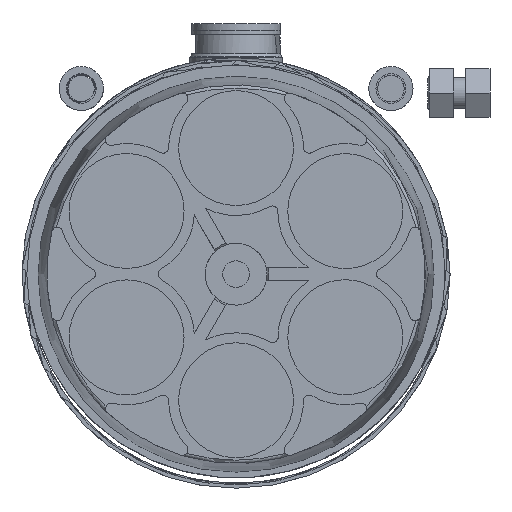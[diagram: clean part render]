
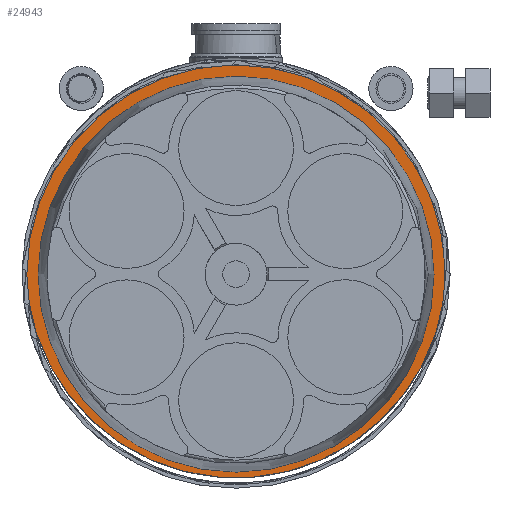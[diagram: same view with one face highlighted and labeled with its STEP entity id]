
A CAD part, left-side view. The second image highlights one B-rep face of the part: STEP entity #24943.
In plain terms, the highlighted planar face has unit normal (-1, 0, 0).
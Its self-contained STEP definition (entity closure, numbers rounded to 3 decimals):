
#23902 = CYLINDRICAL_SURFACE('',#23903,95.);
#23903 = AXIS2_PLACEMENT_3D('',#23904,#23905,#23906);
#23904 = CARTESIAN_POINT('',(-15228.601,235.812,
    -16.));
#23905 = DIRECTION('',(1.,0.,0.));
#23906 = DIRECTION('',(0.,1.,0.));
#24443 = VERTEX_POINT('',#24444);
#24444 = CARTESIAN_POINT('',(-15543.601,329.811,
    -29.753));
#24464 = EDGE_CURVE('',#24443,#24465,#24467,.T.);
#24465 = VERTEX_POINT('',#24466);
#24466 = CARTESIAN_POINT('',(-15543.601,141.813,
    -29.753));
#24467 = SURFACE_CURVE('',#24468,(#24473,#24480),.PCURVE_S1.);
#24468 = CIRCLE('',#24469,95.);
#24469 = AXIS2_PLACEMENT_3D('',#24470,#24471,#24472);
#24470 = CARTESIAN_POINT('',(-15543.601,235.812,
    -16.));
#24471 = DIRECTION('',(-1.,0.,0.));
#24472 = DIRECTION('',(0.,1.,0.));
#24473 = PCURVE('',#23902,#24474);
#24474 = DEFINITIONAL_REPRESENTATION('',(#24475),#24479);
#24475 = LINE('',#24476,#24477);
#24476 = CARTESIAN_POINT('',(-0.,-315.));
#24477 = VECTOR('',#24478,1.);
#24478 = DIRECTION('',(-1.,0.));
#24479 = ( GEOMETRIC_REPRESENTATION_CONTEXT(2) 
PARAMETRIC_REPRESENTATION_CONTEXT() REPRESENTATION_CONTEXT('2D SPACE',''
  ) );
#24480 = PCURVE('',#24481,#24486);
#24481 = PLANE('',#24482);
#24482 = AXIS2_PLACEMENT_3D('',#24483,#24484,#24485);
#24483 = CARTESIAN_POINT('',(-15543.601,330.437,
    -18.888));
#24484 = DIRECTION('',(1.,0.,0.));
#24485 = DIRECTION('',(0.,0.,-1.));
#24486 = DEFINITIONAL_REPRESENTATION('',(#24487),#24495);
#24487 = ( BOUNDED_CURVE() B_SPLINE_CURVE(2,(#24488,#24489,#24490,#24491
    ,#24492,#24493,#24494),.UNSPECIFIED.,.T.,.F.) 
B_SPLINE_CURVE_WITH_KNOTS((1,2,2,2,2,1),(-2.094,0.,
    2.094,4.189,6.283,8.378),
.UNSPECIFIED.) CURVE() GEOMETRIC_REPRESENTATION_ITEM() 
RATIONAL_B_SPLINE_CURVE((1.,0.5,1.,0.5,1.,0.5,1.)) REPRESENTATION_ITEM(
  '') );
#24488 = CARTESIAN_POINT('',(-2.888,0.375));
#24489 = CARTESIAN_POINT('',(161.656,0.375));
#24490 = CARTESIAN_POINT('',(79.384,-142.125));
#24491 = CARTESIAN_POINT('',(-2.888,-284.625));
#24492 = CARTESIAN_POINT('',(-85.161,-142.125));
#24493 = CARTESIAN_POINT('',(-167.433,0.375));
#24494 = CARTESIAN_POINT('',(-2.888,0.375));
#24495 = ( GEOMETRIC_REPRESENTATION_CONTEXT(2) 
PARAMETRIC_REPRESENTATION_CONTEXT() REPRESENTATION_CONTEXT('2D SPACE',''
  ) );
#24513 = CYLINDRICAL_SURFACE('',#24514,94.625);
#24514 = AXIS2_PLACEMENT_3D('',#24515,#24516,#24517);
#24515 = CARTESIAN_POINT('',(-15548.101,235.812,
    -18.888));
#24516 = DIRECTION('',(1.,0.,-0.));
#24517 = DIRECTION('',(0.,1.,0.));
#24943 = ADVANCED_FACE('',(#24944,#25001),#24481,.F.);
#24944 = FACE_BOUND('',#24945,.F.);
#24945 = EDGE_LOOP('',(#24946,#24947,#24975));
#24946 = ORIENTED_EDGE('',*,*,#24464,.F.);
#24947 = ORIENTED_EDGE('',*,*,#24948,.F.);
#24948 = EDGE_CURVE('',#24949,#24443,#24951,.T.);
#24949 = VERTEX_POINT('',#24950);
#24950 = CARTESIAN_POINT('',(-15543.601,330.437,
    -18.888));
#24951 = SURFACE_CURVE('',#24952,(#24957,#24968),.PCURVE_S1.);
#24952 = CIRCLE('',#24953,94.625);
#24953 = AXIS2_PLACEMENT_3D('',#24954,#24955,#24956);
#24954 = CARTESIAN_POINT('',(-15543.601,235.812,
    -18.888));
#24955 = DIRECTION('',(-1.,0.,0.));
#24956 = DIRECTION('',(0.,0.,1.));
#24957 = PCURVE('',#24481,#24958);
#24958 = DEFINITIONAL_REPRESENTATION('',(#24959),#24967);
#24959 = ( BOUNDED_CURVE() B_SPLINE_CURVE(2,(#24960,#24961,#24962,#24963
    ,#24964,#24965,#24966),.UNSPECIFIED.,.T.,.F.) 
B_SPLINE_CURVE_WITH_KNOTS((1,2,2,2,2,1),(-2.094,0.,
    2.094,4.189,6.283,8.378),
.UNSPECIFIED.) CURVE() GEOMETRIC_REPRESENTATION_ITEM() 
RATIONAL_B_SPLINE_CURVE((1.,0.5,1.,0.5,1.,0.5,1.)) REPRESENTATION_ITEM(
  '') );
#24960 = CARTESIAN_POINT('',(-94.625,-94.625));
#24961 = CARTESIAN_POINT('',(-94.625,69.27));
#24962 = CARTESIAN_POINT('',(47.313,-12.677));
#24963 = CARTESIAN_POINT('',(189.25,-94.625));
#24964 = CARTESIAN_POINT('',(47.313,-176.573));
#24965 = CARTESIAN_POINT('',(-94.625,-258.52));
#24966 = CARTESIAN_POINT('',(-94.625,-94.625));
#24967 = ( GEOMETRIC_REPRESENTATION_CONTEXT(2) 
PARAMETRIC_REPRESENTATION_CONTEXT() REPRESENTATION_CONTEXT('2D SPACE',''
  ) );
#24968 = PCURVE('',#24513,#24969);
#24969 = DEFINITIONAL_REPRESENTATION('',(#24970),#24974);
#24970 = LINE('',#24971,#24972);
#24971 = CARTESIAN_POINT('',(1.571,4.5));
#24972 = VECTOR('',#24973,1.);
#24973 = DIRECTION('',(-1.,0.));
#24974 = ( GEOMETRIC_REPRESENTATION_CONTEXT(2) 
PARAMETRIC_REPRESENTATION_CONTEXT() REPRESENTATION_CONTEXT('2D SPACE',''
  ) );
#24975 = ORIENTED_EDGE('',*,*,#24976,.F.);
#24976 = EDGE_CURVE('',#24465,#24949,#24977,.T.);
#24977 = SURFACE_CURVE('',#24978,(#24983,#24994),.PCURVE_S1.);
#24978 = CIRCLE('',#24979,94.625);
#24979 = AXIS2_PLACEMENT_3D('',#24980,#24981,#24982);
#24980 = CARTESIAN_POINT('',(-15543.601,235.812,
    -18.888));
#24981 = DIRECTION('',(-1.,0.,0.));
#24982 = DIRECTION('',(0.,0.,1.));
#24983 = PCURVE('',#24481,#24984);
#24984 = DEFINITIONAL_REPRESENTATION('',(#24985),#24993);
#24985 = ( BOUNDED_CURVE() B_SPLINE_CURVE(2,(#24986,#24987,#24988,#24989
    ,#24990,#24991,#24992),.UNSPECIFIED.,.T.,.F.) 
B_SPLINE_CURVE_WITH_KNOTS((1,2,2,2,2,1),(-2.094,0.,
    2.094,4.189,6.283,8.378),
.UNSPECIFIED.) CURVE() GEOMETRIC_REPRESENTATION_ITEM() 
RATIONAL_B_SPLINE_CURVE((1.,0.5,1.,0.5,1.,0.5,1.)) REPRESENTATION_ITEM(
  '') );
#24986 = CARTESIAN_POINT('',(-94.625,-94.625));
#24987 = CARTESIAN_POINT('',(-94.625,69.27));
#24988 = CARTESIAN_POINT('',(47.313,-12.677));
#24989 = CARTESIAN_POINT('',(189.25,-94.625));
#24990 = CARTESIAN_POINT('',(47.313,-176.573));
#24991 = CARTESIAN_POINT('',(-94.625,-258.52));
#24992 = CARTESIAN_POINT('',(-94.625,-94.625));
#24993 = ( GEOMETRIC_REPRESENTATION_CONTEXT(2) 
PARAMETRIC_REPRESENTATION_CONTEXT() REPRESENTATION_CONTEXT('2D SPACE',''
  ) );
#24994 = PCURVE('',#24513,#24995);
#24995 = DEFINITIONAL_REPRESENTATION('',(#24996),#25000);
#24996 = LINE('',#24997,#24998);
#24997 = CARTESIAN_POINT('',(1.571,4.5));
#24998 = VECTOR('',#24999,1.);
#24999 = DIRECTION('',(-1.,0.));
#25000 = ( GEOMETRIC_REPRESENTATION_CONTEXT(2) 
PARAMETRIC_REPRESENTATION_CONTEXT() REPRESENTATION_CONTEXT('2D SPACE',''
  ) );
#25001 = FACE_BOUND('',#25002,.F.);
#25002 = EDGE_LOOP('',(#25003));
#25003 = ORIENTED_EDGE('',*,*,#25004,.T.);
#25004 = EDGE_CURVE('',#25005,#25005,#25007,.T.);
#25005 = VERTEX_POINT('',#25006);
#25006 = CARTESIAN_POINT('',(-15543.601,146.312,
    -18.888));
#25007 = SURFACE_CURVE('',#25008,(#25013,#25024),.PCURVE_S1.);
#25008 = CIRCLE('',#25009,89.5);
#25009 = AXIS2_PLACEMENT_3D('',#25010,#25011,#25012);
#25010 = CARTESIAN_POINT('',(-15543.601,235.812,
    -18.888));
#25011 = DIRECTION('',(-1.,0.,0.));
#25012 = DIRECTION('',(0.,-1.,0.));
#25013 = PCURVE('',#24481,#25014);
#25014 = DEFINITIONAL_REPRESENTATION('',(#25015),#25023);
#25015 = ( BOUNDED_CURVE() B_SPLINE_CURVE(2,(#25016,#25017,#25018,#25019
    ,#25020,#25021,#25022),.UNSPECIFIED.,.T.,.F.) 
B_SPLINE_CURVE_WITH_KNOTS((1,2,2,2,2,1),(-2.094,0.,
    2.094,4.189,6.283,8.378),
.UNSPECIFIED.) CURVE() GEOMETRIC_REPRESENTATION_ITEM() 
RATIONAL_B_SPLINE_CURVE((1.,0.5,1.,0.5,1.,0.5,1.)) REPRESENTATION_ITEM(
  '') );
#25016 = CARTESIAN_POINT('',(0.,-184.125));
#25017 = CARTESIAN_POINT('',(-155.019,-184.125));
#25018 = CARTESIAN_POINT('',(-77.509,-49.875));
#25019 = CARTESIAN_POINT('',(0.,84.375));
#25020 = CARTESIAN_POINT('',(77.509,-49.875));
#25021 = CARTESIAN_POINT('',(155.019,-184.125));
#25022 = CARTESIAN_POINT('',(0.,-184.125));
#25023 = ( GEOMETRIC_REPRESENTATION_CONTEXT(2) 
PARAMETRIC_REPRESENTATION_CONTEXT() REPRESENTATION_CONTEXT('2D SPACE',''
  ) );
#25024 = PCURVE('',#25025,#25030);
#25025 = CONICAL_SURFACE('',#25026,87.54,0.057);
#25026 = AXIS2_PLACEMENT_3D('',#25027,#25028,#25029);
#25027 = CARTESIAN_POINT('',(-18641.808,235.812,
    -18.888));
#25028 = DIRECTION('',(-1.,0.,0.));
#25029 = DIRECTION('',(0.,1.,0.));
#25030 = DEFINITIONAL_REPRESENTATION('',(#25031),#25035);
#25031 = LINE('',#25032,#25033);
#25032 = CARTESIAN_POINT('',(0.,-3098.207));
#25033 = VECTOR('',#25034,1.);
#25034 = DIRECTION('',(1.,0.));
#25035 = ( GEOMETRIC_REPRESENTATION_CONTEXT(2) 
PARAMETRIC_REPRESENTATION_CONTEXT() REPRESENTATION_CONTEXT('2D SPACE',''
  ) );
